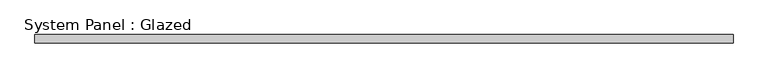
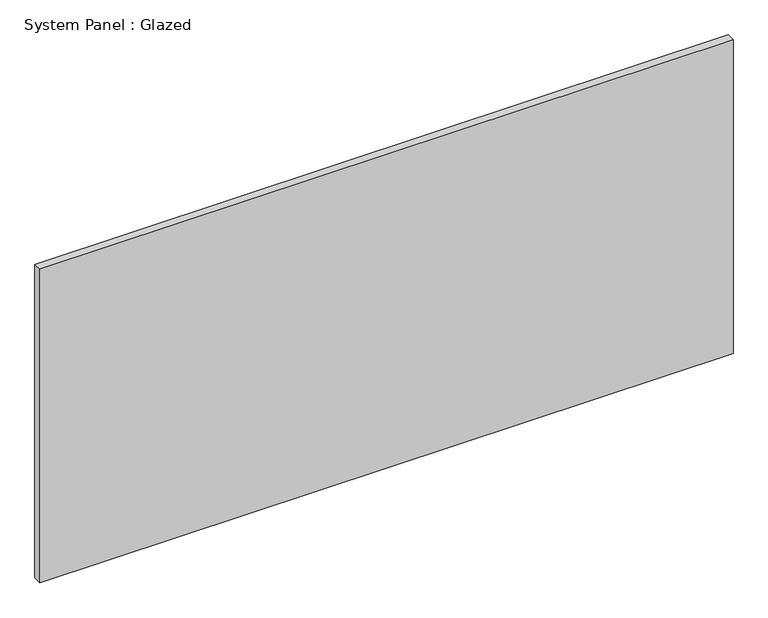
"""IFC4 building model written with IfcOpenShell, lengths in millimetres: plate geometry, System Panel : Glazed."""

from ifc_helpers import new_model, si_unit, origin, origin_with_axes, place, context, project, spatial, polyline, outline, extrude, source, transform, mapped, element, save


def system_panel_glazed_3c43611c(model_context):
    return source(origin(), model_context, "Body", "SweptSolid", [
        extrude(outline(polyline([(1047.75, 19.05), (-1047.75, 19.05), (-1047.75, 44.45), (1047.75, 44.45), (1047.75, 19.05)])), origin_with_axes(), (0.0, 0.0, 1.0), 1003.3),
    ])


if __name__ == "__main__":
    model = new_model("IFC4")
    model_context = context("Model", 3, world=origin())
    ifc_project = project(units=[si_unit("LENGTHUNIT", "METRE", prefix="MILLI")], contexts=[model_context])
    site = spatial("IfcSite", under=ifc_project)
    building = spatial("IfcBuilding", under=site)
    placement = place(None, origin())
    system_panel_glazed_shape = system_panel_glazed_3c43611c(model_context)
    element("IfcPlate", 1, ObjectType="System Panel : Glazed", at=placement, inside=building, context=model_context, shape_type="MappedRepresentation", body=[
        mapped(system_panel_glazed_shape, transform((0.0, 0.0, 0.0), x_axis=(1.0, 0.0, 0.0), y_axis=(0.0, 1.0, 0.0), z_axis=(0.0, 0.0, 1.0))),
    ])
    save(model, "model.ifc")
